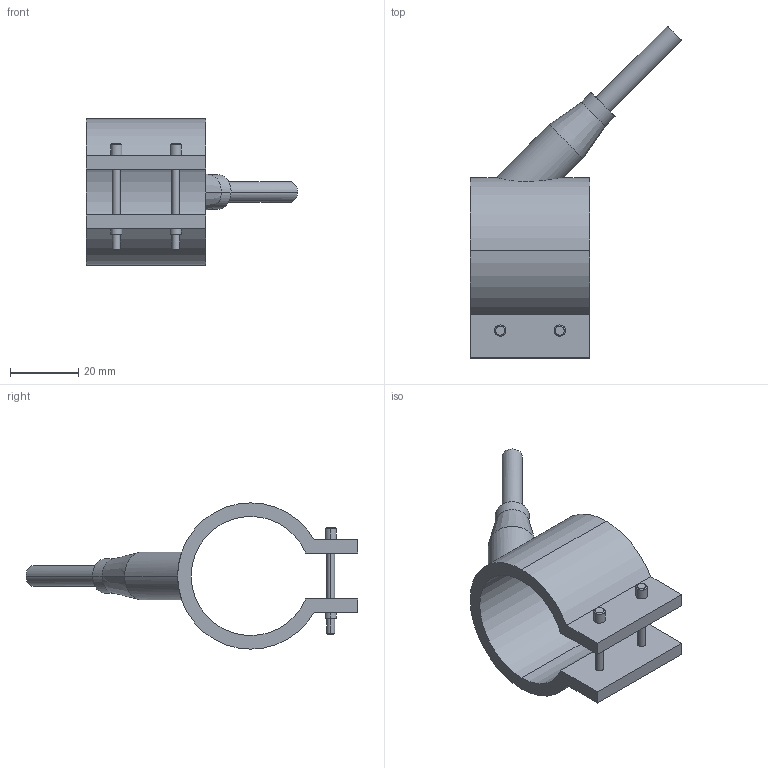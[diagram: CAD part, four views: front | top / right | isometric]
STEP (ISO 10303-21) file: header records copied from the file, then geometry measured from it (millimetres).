
FILE_DESCRIPTION(('CATIA V5 STEP Exchange'),'2;1');
FILE_NAME('C:\Users\Utente\Desktop\IO LAVORO\3D X SITO CF\X SITO\PLASTICA\RF1\29035035.stp','2021-03-27T09:01:42+00:00',('none'),('none'),'CATIA Version 5 Release 20 GA (IN-10)','CATIA V5 STEP AP203','none');
FILE_SCHEMA(('CONFIG_CONTROL_DESIGN'));
Length unit declared in the file: millimetre
Products named in the file (1): 29035035
Bounding box: 62.05 x 97.55 x 43 mm (x, y, z)
Volume: 23621 mm3; surface area: 12645.5 mm2
Topology: 1 solids, 1 shells, 54 faces, 123 edges, 79 vertices
Faces by surface type: cylinder 28, plane 16, cone 10
Entity records: 1746 total; most frequent: CARTESIAN_POINT 512, ORIENTED_EDGE 246, DIRECTION 214, EDGE_CURVE 123, AXIS2_PLACEMENT_3D 107, VERTEX_POINT 79, EDGE_LOOP 66, VECTOR 56
